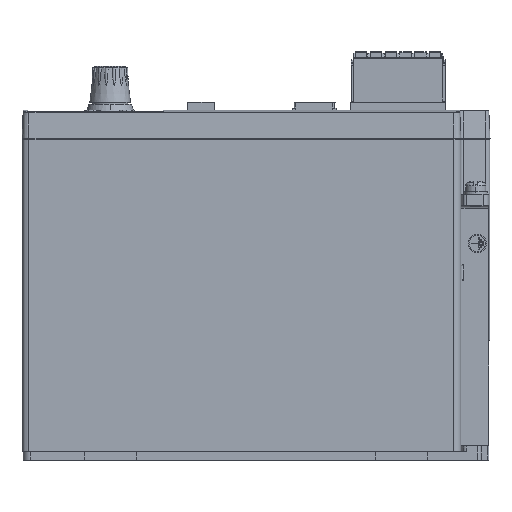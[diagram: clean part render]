
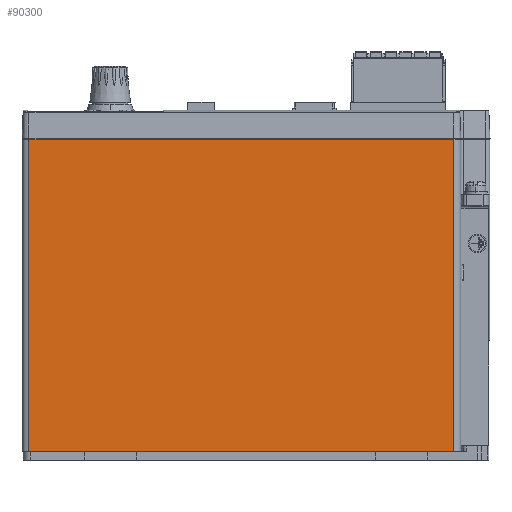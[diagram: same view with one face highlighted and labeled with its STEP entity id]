
A CAD part, left-side view. The second image highlights one B-rep face of the part: STEP entity #90300.
In plain terms, the highlighted planar face has unit normal (-1, 0, 0).
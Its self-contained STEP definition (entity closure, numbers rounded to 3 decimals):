
#5831 = LINE ( 'NONE', #136013, #93064 ) ;
#9142 = EDGE_CURVE ( 'NONE', #59134, #98523, #5831, .T. ) ;
#11098 = DIRECTION ( 'NONE',  ( 0., 0., 1. ) ) ;
#13192 = EDGE_CURVE ( 'NONE', #98523, #24305, #131342, .T. ) ;
#13606 = VECTOR ( 'NONE', #124082, 1000. ) ;
#20645 = AXIS2_PLACEMENT_3D ( 'NONE', #86590, #120917, #52747 ) ;
#24305 = VERTEX_POINT ( 'NONE', #115767 ) ;
#28354 = ORIENTED_EDGE ( 'NONE', *, *, #13192, .F. ) ;
#37677 = CARTESIAN_POINT ( 'NONE',  ( -20.05, -68., 110.3 ) ) ;
#44467 = DIRECTION ( 'NONE',  ( 0., 1., 0. ) ) ;
#44498 = CARTESIAN_POINT ( 'NONE',  ( -20.05, -68., 276.025 ) ) ;
#47514 = LINE ( 'NONE', #44498, #13606 ) ;
#47778 = EDGE_LOOP ( 'NONE', ( #73420, #54750, #28354, #59860 ) ) ;
#52747 = DIRECTION ( 'NONE',  ( 0., 1., 0. ) ) ;
#54750 = ORIENTED_EDGE ( 'NONE', *, *, #132023, .F. ) ;
#59134 = VERTEX_POINT ( 'NONE', #122318 ) ;
#59860 = ORIENTED_EDGE ( 'NONE', *, *, #9142, .F. ) ;
#60845 = FACE_OUTER_BOUND ( 'NONE', #47778, .T. ) ;
#61330 = VERTEX_POINT ( 'NONE', #37677 ) ;
#65342 = CARTESIAN_POINT ( 'NONE',  ( -20.05, -68., 110.3 ) ) ;
#70868 = VECTOR ( 'NONE', #11098, 1000. ) ;
#73420 = ORIENTED_EDGE ( 'NONE', *, *, #124970, .F. ) ;
#73897 = CARTESIAN_POINT ( 'NONE',  ( -20.05, 78., 3. ) ) ;
#80759 = CARTESIAN_POINT ( 'NONE',  ( -20.05, 78., 276.025 ) ) ;
#86590 = CARTESIAN_POINT ( 'NONE',  ( -20.05, -68., 276.025 ) ) ;
#90300 = ADVANCED_FACE ( 'NONE', ( #60845 ), #109504, .F. ) ;
#93064 = VECTOR ( 'NONE', #44467, 1000. ) ;
#93371 = LINE ( 'NONE', #65342, #120138 ) ;
#98523 = VERTEX_POINT ( 'NONE', #73897 ) ;
#109504 = PLANE ( 'NONE',  #20645 ) ;
#115767 = CARTESIAN_POINT ( 'NONE',  ( -20.05, 78., 110.3 ) ) ;
#120138 = VECTOR ( 'NONE', #133496, 1000. ) ;
#120917 = DIRECTION ( 'NONE',  ( 1., 0., 0. ) ) ;
#122318 = CARTESIAN_POINT ( 'NONE',  ( -20.05, -68., 3. ) ) ;
#124082 = DIRECTION ( 'NONE',  ( 0., 0., -1. ) ) ;
#124970 = EDGE_CURVE ( 'NONE', #61330, #59134, #47514, .T. ) ;
#131342 = LINE ( 'NONE', #80759, #70868 ) ;
#132023 = EDGE_CURVE ( 'NONE', #24305, #61330, #93371, .T. ) ;
#133496 = DIRECTION ( 'NONE',  ( 0., -1., 0. ) ) ;
#136013 = CARTESIAN_POINT ( 'NONE',  ( -20.05, -68., 3. ) ) ;
